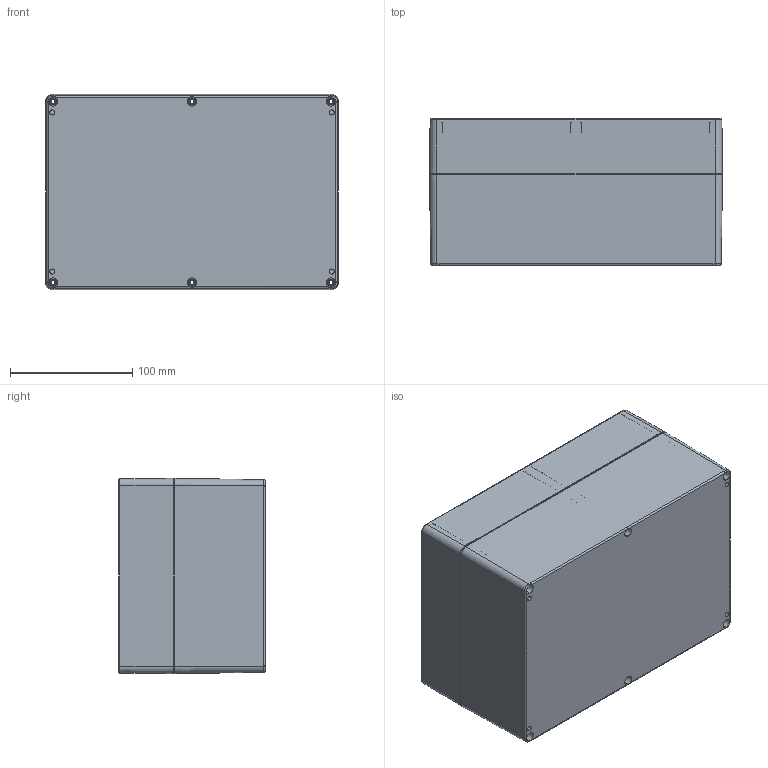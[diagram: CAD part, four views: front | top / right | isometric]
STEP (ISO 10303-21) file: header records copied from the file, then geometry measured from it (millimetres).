
FILE_DESCRIPTION (( 'STEP AP203' ), '1' );
FILE_NAME ('PE262.STEP', '2020-01-24T12:59:37', ( '' ), ( '' ), 'SwSTEP 2.0', 'SolidWorks 2020', '' );
FILE_SCHEMA (( 'CONFIG_CONTROL_DESIGN' ));
Length unit declared in the file: millimetre
Products named in the file (4): PE262
Assembly tree (3 placements, depth 2):
  PE262
    PE262
    PE262
    PE262
Bounding box: 239.57 x 120.1 x 159.85 mm (x, y, z)
Volume: 668324.1 mm3; surface area: 448027.3 mm2
Topology: 13 solids, 13 shells, 1836 faces, 4827 edges, 3146 vertices
Faces by surface type: bspline 568, cylinder 526, plane 411, cone 327, torus 4
Entity records: 63573 total; most frequent: CARTESIAN_POINT 20575, ORIENTED_EDGE 9654, DIRECTION 7925, EDGE_CURVE 4827, VERTEX_POINT 3146, AXIS2_PLACEMENT_3D 2970, EDGE_LOOP 2067, VECTOR 1985
